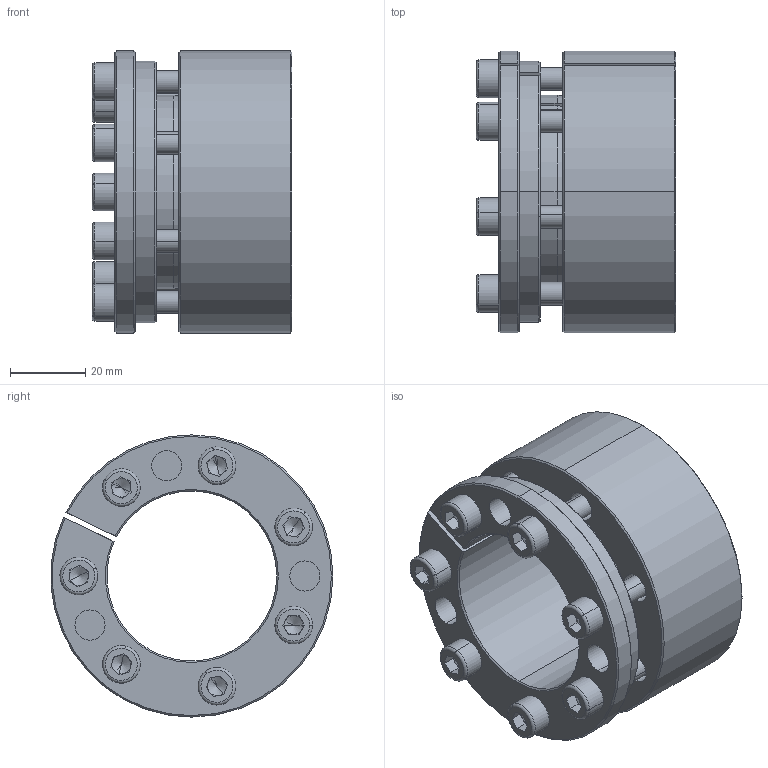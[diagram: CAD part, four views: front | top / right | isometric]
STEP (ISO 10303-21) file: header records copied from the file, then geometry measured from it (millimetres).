
FILE_DESCRIPTION (( 'STEP AP214' ), '1' );
FILE_NAME ('PL-H2 45-75.STEP', '2022-07-25T02:06:15', ( '' ), ( '' ), 'SwSTEP 2.0', 'SolidWorks 2022', '' );
FILE_SCHEMA (( 'AUTOMOTIVE_DESIGN' ));
Length unit declared in the file: millimetre
Products named in the file (1): PL-H2 45-75
Bounding box: 53 x 74.81 x 74.9 mm (x, y, z)
Volume: 103985.7 mm3; surface area: 40463.3 mm2
Topology: 1 solids, 1 shells, 268 faces, 657 edges, 398 vertices
Faces by surface type: plane 113, cylinder 77, cone 64, torus 14
Entity records: 7894 total; most frequent: DIRECTION 1462, CARTESIAN_POINT 1382, ORIENTED_EDGE 1286, EDGE_CURVE 643, AXIS2_PLACEMENT_3D 574, VERTEX_POINT 398, LINE 314, VECTOR 314
